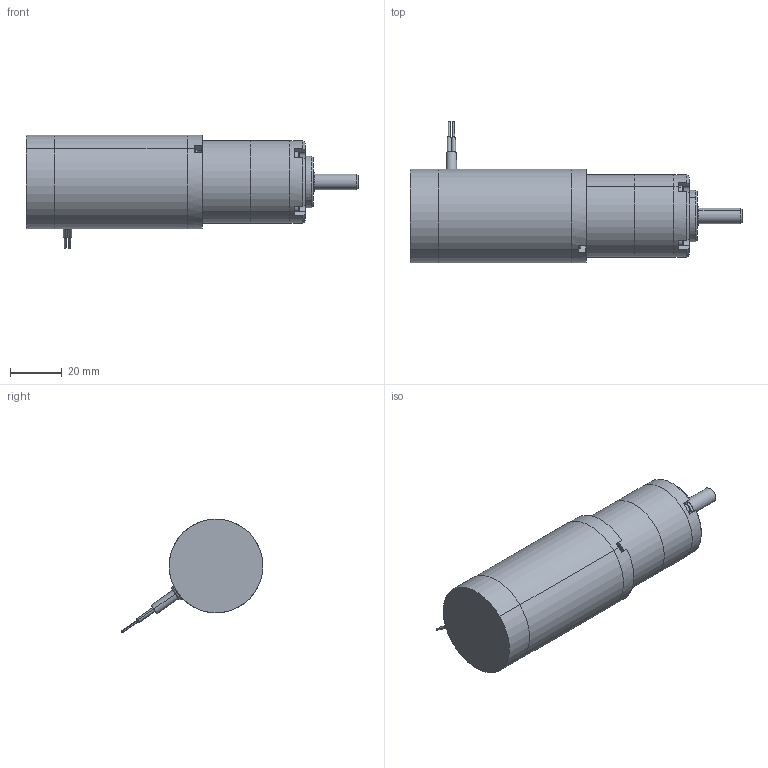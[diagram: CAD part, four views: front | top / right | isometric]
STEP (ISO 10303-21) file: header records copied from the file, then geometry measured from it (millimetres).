
FILE_DESCRIPTION (( 'STEP AP203' ), '1' );
FILE_NAME ('tm36268gp1.step', '2018-12-07T20:08:56', ( '' ), ( '' ), 'SwSTEP 2.0', 'SolidWorks 2017', '' );
FILE_SCHEMA (( 'CONFIG_CONTROL_DESIGN' ));
Length unit declared in the file: inch
Products named in the file (1): tm36268gp1
Bounding box: 128.32 x 54.82 x 44.01 mm (x, y, z)
Volume: 101602.1 mm3; surface area: 25731.4 mm2
Topology: 10 solids, 10 shells, 265 faces, 632 edges, 400 vertices
Faces by surface type: plane 133, cylinder 88, cone 27, torus 17
Entity records: 7715 total; most frequent: CARTESIAN_POINT 1386, DIRECTION 1360, ORIENTED_EDGE 1232, EDGE_CURVE 616, AXIS2_PLACEMENT_3D 494, VERTEX_POINT 400, VECTOR 372, LINE 372
